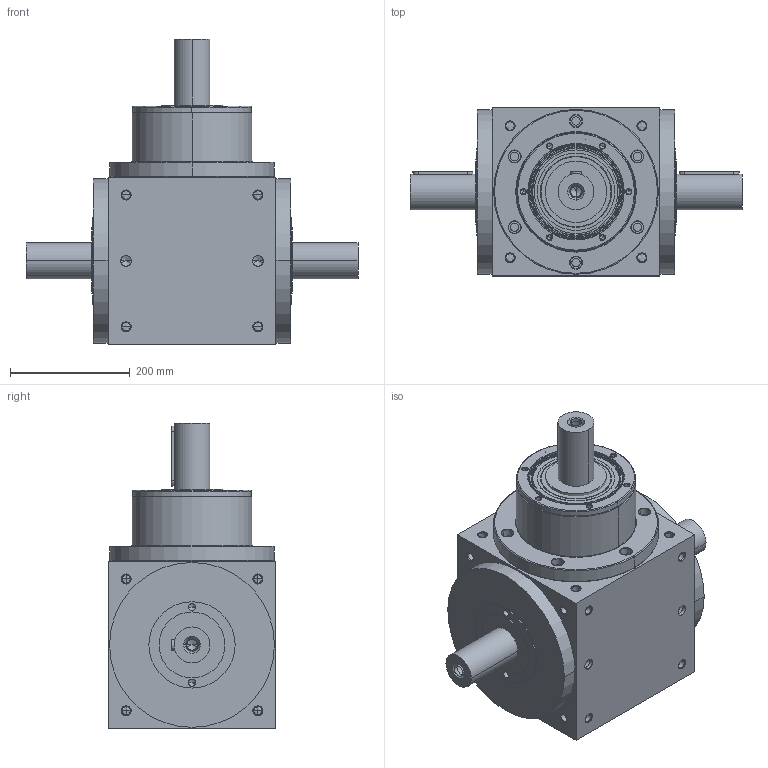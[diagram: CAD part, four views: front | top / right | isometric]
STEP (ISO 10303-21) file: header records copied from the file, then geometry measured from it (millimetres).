
FILE_DESCRIPTION((''),'2;1');
FILE_NAME('AT280L-1_ASM','2008-12-31T',('d00176'),(''),'PRO/ENGINEER BY PARAMETRIC TECHNOLOGY CORPORATION, 2006170','PRO/ENGINEER BY PARAMETRIC TECHNOLOGY CORPORATION, 2006170','');
FILE_SCHEMA(('CONFIG_CONTROL_DESIGN'));
Length unit declared in the file: millimetre
Products named in the file (4): ATL-HOUSING-1-A; P1801A00001; 22400071010; AT280L-1_ASM
Assembly tree (3 placements, depth 2):
  AT280L-1_ASM
    ATL-HOUSING-1-A
    P1801A00001
    22400071010
Bounding box: 554 x 280 x 510 mm (x, y, z)
Volume: 28787522 mm3; surface area: 1004408.8 mm2
Topology: 4 solids, 37 shells, 616 faces, 1521 edges, 902 vertices
Faces by surface type: cylinder 284, cone 212, plane 82, torus 38
Entity records: 18356 total; most frequent: CARTESIAN_POINT 3824, DIRECTION 3263, ORIENTED_EDGE 2750, EDGE_CURVE 1441, AXIS2_PLACEMENT_3D 1367, VERTEX_POINT 902, CIRCLE 740, EDGE_LOOP 733
